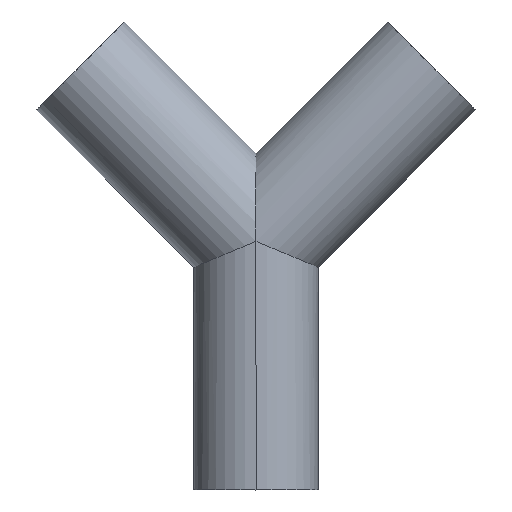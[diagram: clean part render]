
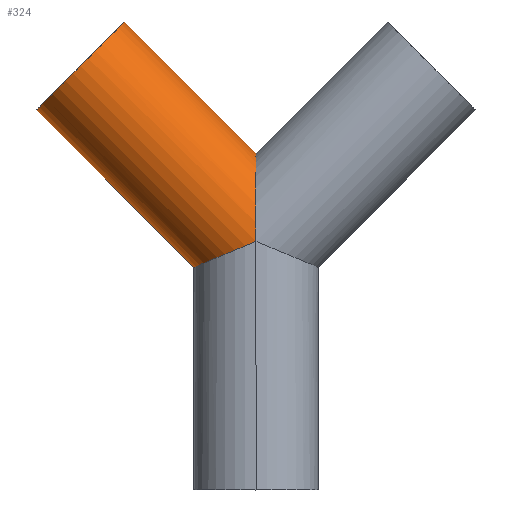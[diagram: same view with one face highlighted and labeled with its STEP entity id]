
A CAD part, top view. The second image highlights one B-rep face of the part: STEP entity #324.
In plain terms, the highlighted cylindrical face has radius 50.8 mm (diameter 101.6 mm), a partial arc.
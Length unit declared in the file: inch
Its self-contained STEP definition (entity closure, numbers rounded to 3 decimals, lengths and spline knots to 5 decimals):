
#11 = EDGE_CURVE ( 'NONE', #415, #147, #305, .T. ) ;
#15 = DIRECTION ( 'NONE',  ( -0.707, 0.707, 0. ) ) ;
#18 = CARTESIAN_POINT ( 'NONE',  ( 1.41421, 9.41421, 0. ) ) ;
#50 = VERTEX_POINT ( 'NONE', #315 ) ;
#67 = EDGE_CURVE ( 'NONE', #50, #402, #318, .T. ) ;
#105 = ORIENTED_EDGE ( 'NONE', *, *, #211, .T. ) ;
#118 = AXIS2_PLACEMENT_3D ( 'NONE', #314, #15, #269 ) ;
#129 = EDGE_CURVE ( 'NONE', #449, #50, #300, .T. ) ;
#143 = VECTOR ( 'NONE', #450, 39.37008 ) ;
#147 = VERTEX_POINT ( 'NONE', #192 ) ;
#155 = DIRECTION ( 'NONE',  ( -0.707, 0.707, 0. ) ) ;
#161 = CARTESIAN_POINT ( 'NONE',  ( 0., 8., 2. ) ) ;
#164 = ORIENTED_EDGE ( 'NONE', *, *, #67, .F. ) ;
#180 = CARTESIAN_POINT ( 'NONE',  ( 0., 9.65685, 2. ) ) ;
#188 = CARTESIAN_POINT ( 'NONE',  ( 0., 10.82843, 1.17157 ) ) ;
#192 = CARTESIAN_POINT ( 'NONE',  ( 0., 10.82843, 0. ) ) ;
#211 = EDGE_CURVE ( 'NONE', #147, #402, #270, .T. ) ;
#216 = CARTESIAN_POINT ( 'NONE',  ( -2., 7.17157, 0. ) ) ;
#222 = CYLINDRICAL_SURFACE ( 'NONE', #271, 2. ) ;
#239 = FACE_OUTER_BOUND ( 'NONE', #274, .T. ) ;
#250 = VECTOR ( 'NONE', #155, 39.37008 ) ;
#256 = CARTESIAN_POINT ( 'NONE',  ( 0., 8., 0. ) ) ;
#257 = CARTESIAN_POINT ( 'NONE',  ( -2., 7.17157, 0. ) ) ;
#269 = DIRECTION ( 'NONE',  ( -0.707, -0.707, 0. ) ) ;
#270 = LINE ( 'NONE', #18, #250 ) ;
#271 = AXIS2_PLACEMENT_3D ( 'NONE', #256, #302, #469 ) ;
#274 = EDGE_LOOP ( 'NONE', ( #355, #105, #164, #389, #426 ) ) ;
#275 = CARTESIAN_POINT ( 'NONE',  ( 0., 10.82843, 0. ) ) ;
#299 = CARTESIAN_POINT ( 'NONE',  ( 0., 8., 2. ) ) ;
#300 = LINE ( 'NONE', #361, #143 ) ;
#302 = DIRECTION ( 'NONE',  ( -0.707, 0.707, 0. ) ) ;
#305 =( BOUNDED_CURVE ( )  B_SPLINE_CURVE ( 3, ( #489, #180, #188, #275 ),
 .UNSPECIFIED., .F., .F. ) 
 B_SPLINE_CURVE_WITH_KNOTS ( ( 4, 4 ),
 ( 4.71239, 6.28319 ),
 .UNSPECIFIED. ) 
 CURVE ( )  GEOMETRIC_REPRESENTATION_ITEM ( )  RATIONAL_B_SPLINE_CURVE ( ( 1., 0.805, 0.805, 1. ) ) 
 REPRESENTATION_ITEM ( '' )  );
#314 = CARTESIAN_POINT ( 'NONE',  ( -5.65685, 13.65685, 0. ) ) ;
#315 = CARTESIAN_POINT ( 'NONE',  ( -7.07107, 12.24264, 0. ) ) ;
#318 = CIRCLE ( 'NONE', #118, 2. ) ;
#324 = ADVANCED_FACE ( 'NONE', ( #239 ), #222, .T. ) ;
#355 = ORIENTED_EDGE ( 'NONE', *, *, #11, .T. ) ;
#361 = CARTESIAN_POINT ( 'NONE',  ( -1.41421, 6.58579, 0. ) ) ;
#385 = CARTESIAN_POINT ( 'NONE',  ( -4.24264, 15.07107, 0. ) ) ;
#389 = ORIENTED_EDGE ( 'NONE', *, *, #129, .F. ) ;
#402 = VERTEX_POINT ( 'NONE', #385 ) ;
#415 = VERTEX_POINT ( 'NONE', #161 ) ;
#426 = ORIENTED_EDGE ( 'NONE', *, *, #439, .F. ) ;
#428 = CARTESIAN_POINT ( 'NONE',  ( -1.17157, 7.51472, 2. ) ) ;
#439 = EDGE_CURVE ( 'NONE', #415, #449, #470, .T. ) ;
#449 = VERTEX_POINT ( 'NONE', #216 ) ;
#450 = DIRECTION ( 'NONE',  ( -0.707, 0.707, 0. ) ) ;
#469 = DIRECTION ( 'NONE',  ( -0.707, -0.707, 0. ) ) ;
#470 =( BOUNDED_CURVE ( )  B_SPLINE_CURVE ( 3, ( #299, #428, #516, #257 ),
 .UNSPECIFIED., .F., .F. ) 
 B_SPLINE_CURVE_WITH_KNOTS ( ( 4, 4 ),
 ( 4.71239, 6.28319 ),
 .UNSPECIFIED. ) 
 CURVE ( )  GEOMETRIC_REPRESENTATION_ITEM ( )  RATIONAL_B_SPLINE_CURVE ( ( 1., 0.805, 0.805, 1. ) ) 
 REPRESENTATION_ITEM ( '' )  );
#489 = CARTESIAN_POINT ( 'NONE',  ( 0., 8., 2. ) ) ;
#516 = CARTESIAN_POINT ( 'NONE',  ( -2., 7.17157, 1.17157 ) ) ;
